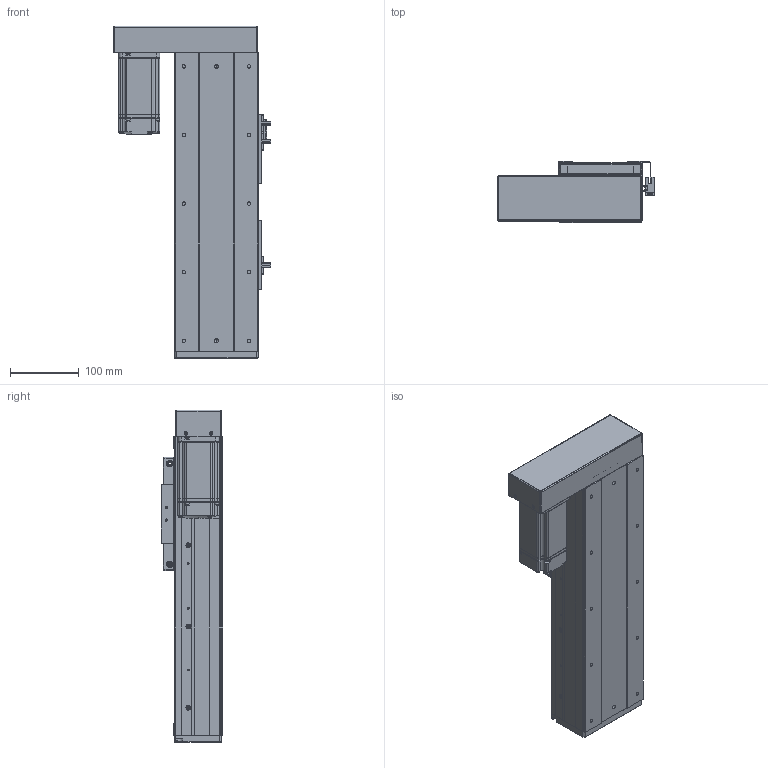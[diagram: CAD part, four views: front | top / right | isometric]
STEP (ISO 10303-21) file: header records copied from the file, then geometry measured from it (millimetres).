
FILE_DESCRIPTION (( 'STEP AP203' ), '1' );
FILE_NAME ('RY120F-L1620-300-LK.SLDASM_200.step', '2021-03-02T08:03:34', ( '盈信电脑' ), ( '东莞市道滘镇水果街19号' ), 'SwSTEP 2.0', 'SolidWorks 2012', '' );
FILE_SCHEMA (( 'CONFIG_CONTROL_DESIGN' ));
Length unit declared in the file: millimetre
Products named in the file (18): RY120F-L1620-300-LK.SLDASM_200; RY120F酘衵殏萇儂欶(200W); RY120F酘衵殏萇儂啣(200W PCD70 M4); RY80俋离覜茼え; FY120F詩湍揤踡輸; 15; 覜茼ん672; RY120F-詩湍幗謫粣; 672嫖萇羲壽假蚾釱; RY120F转折电机端支撑座; RY120F綴裔啣(臏璃ㄘ; 滅袉蝶18-24; RY120F祥凄詩滅鳥裔; RT120F-臏賑輸 16蹟譫; RT120F-300-倰第裔啣-LK_200; RY120F滅鳥詩湍-300-LK_200; RT120F-臏賑輸奻釱; RT120F-300-倰第菁釱-LK_200
Assembly tree (23 placements, depth 2):
  RY120F-L1620-300-LK.SLDASM_200
    RT120F-300-倰第菁釱-LK_200
    RT120F-300-倰第裔啣-LK_200  x2
    RY120F滅鳥詩湍-300-LK_200
    RT120F-臏賑輸 16蹟譫
    RT120F-臏賑輸奻釱
    RY120F转折电机端支撑座
    RY120F祥凄詩滅鳥裔
    滅袉蝶18-24  x2
    RY120F綴裔啣(臏璃ㄘ
    RY120F-詩湍幗謫粣
    覜茼ん672  x3
    672嫖萇羲壽假蚾釱  x2
    RY80俋离覜茼え
    FY120F詩湍揤踡輸  x2
    15
    RY120F酘衵殏萇儂啣(200W PCD70 M4)
    RY120F酘衵殏萇儂欶(200W)
Bounding box: 229.9 x 89 x 484 mm (x, y, z)
Volume: 2248515.6 mm3; surface area: 791594.9 mm2
Topology: 23 solids, 23 shells, 2011 faces, 5393 edges, 3447 vertices
Faces by surface type: plane 896, cylinder 880, cone 209, bspline 26
Entity records: 56251 total; most frequent: CARTESIAN_POINT 10422, DIRECTION 9461, ORIENTED_EDGE 8866, EDGE_CURVE 4433, AXIS2_PLACEMENT_3D 3402, VERTEX_POINT 2891, LINE 2657, VECTOR 2657
